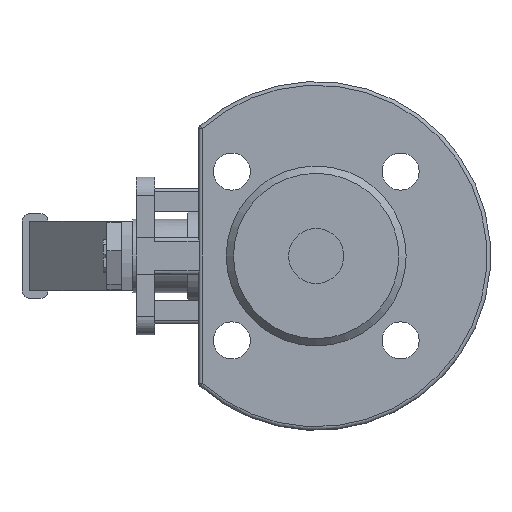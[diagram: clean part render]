
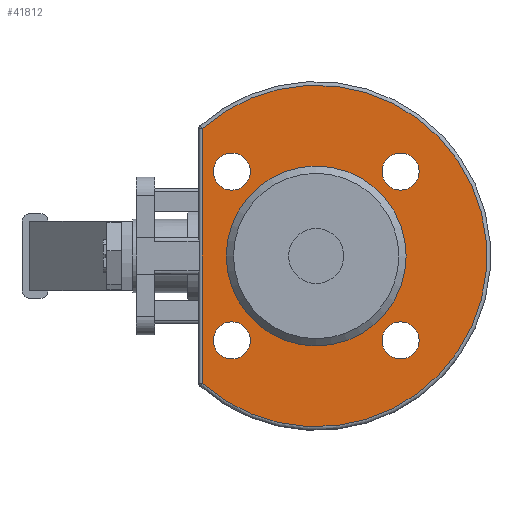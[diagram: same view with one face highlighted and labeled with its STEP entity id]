
A CAD part, left-side view. The second image highlights one B-rep face of the part: STEP entity #41812.
In plain terms, the highlighted planar face has unit normal (-1, 0, 0).
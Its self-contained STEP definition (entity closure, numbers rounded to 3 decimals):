
#41584=CARTESIAN_POINT('',(-19.,31.,-34.659));
#41585=VERTEX_POINT('',#41584);
#41593=CARTESIAN_POINT('',(-19.,31.,34.659));
#41594=VERTEX_POINT('',#41593);
#41595=CARTESIAN_POINT('',(-19.,31.,-34.659));
#41596=DIRECTION('',(0.0,0.0,1.0));
#41597=VECTOR('',#41596,69.318);
#41598=LINE('',#41595,#41597);
#41599=EDGE_CURVE('',#41585,#41594,#41598,.T.);
#41742=CARTESIAN_POINT('',(-19.,36.0,0.0));
#41743=DIRECTION('',(-1.0,0.0,0.0));
#41744=DIRECTION('',(0.0,0.0,1.0));
#41745=AXIS2_PLACEMENT_3D('',#41742,#41743,#41744);
#41746=PLANE('',#41745);
#41747=ORIENTED_EDGE('',*,*,#41599,.F.);
#41748=CARTESIAN_POINT('',(-19.,0.0,0.0));
#41749=DIRECTION('',(1.0,0.0,0.0));
#41750=DIRECTION('',(0.0,-1.0,0.0));
#41751=AXIS2_PLACEMENT_3D('',#41748,#41749,#41750);
#41752=CIRCLE('',#41751,46.5);
#41753=EDGE_CURVE('',#41594,#41585,#41752,.T.);
#41754=ORIENTED_EDGE('',*,*,#41753,.F.);
#41755=EDGE_LOOP('',(#41747,#41754));
#41756=FACE_OUTER_BOUND('',#41755,.T.);
#41757=CARTESIAN_POINT('',(-19.,24.5,0.0));
#41758=VERTEX_POINT('',#41757);
#41759=CARTESIAN_POINT('',(-19.,0.0,0.0));
#41760=DIRECTION('',(1.0,0.0,0.0));
#41761=DIRECTION('',(0.0,1.0,0.0));
#41762=AXIS2_PLACEMENT_3D('',#41759,#41760,#41761);
#41763=CIRCLE('',#41762,24.5);
#41764=EDGE_CURVE('',#41758,#41758,#41763,.T.);
#41765=ORIENTED_EDGE('',*,*,#41764,.T.);
#41766=EDGE_LOOP('',(#41765));
#41767=FACE_BOUND('',#41766,.T.);
#41768=CARTESIAN_POINT('',(-19.,22.981,28.034));
#41769=VERTEX_POINT('',#41768);
#41770=CARTESIAN_POINT('',(-19.,22.981,22.981));
#41771=DIRECTION('',(1.0,0.0,0.0));
#41772=DIRECTION('',(0.0,0.0,1.0));
#41773=AXIS2_PLACEMENT_3D('',#41770,#41771,#41772);
#41774=CIRCLE('',#41773,5.053);
#41775=EDGE_CURVE('',#41769,#41769,#41774,.T.);
#41776=ORIENTED_EDGE('',*,*,#41775,.T.);
#41777=EDGE_LOOP('',(#41776));
#41778=FACE_BOUND('',#41777,.T.);
#41779=CARTESIAN_POINT('',(-19.,22.981,-17.928));
#41780=VERTEX_POINT('',#41779);
#41781=CARTESIAN_POINT('',(-19.,22.981,-22.981));
#41782=DIRECTION('',(1.0,0.0,0.0));
#41783=DIRECTION('',(0.0,0.0,1.0));
#41784=AXIS2_PLACEMENT_3D('',#41781,#41782,#41783);
#41785=CIRCLE('',#41784,5.053);
#41786=EDGE_CURVE('',#41780,#41780,#41785,.T.);
#41787=ORIENTED_EDGE('',*,*,#41786,.T.);
#41788=EDGE_LOOP('',(#41787));
#41789=FACE_BOUND('',#41788,.T.);
#41790=CARTESIAN_POINT('',(-19.,-22.981,-17.928));
#41791=VERTEX_POINT('',#41790);
#41792=CARTESIAN_POINT('',(-19.,-22.981,-22.981));
#41793=DIRECTION('',(1.0,0.0,0.0));
#41794=DIRECTION('',(0.0,0.0,1.0));
#41795=AXIS2_PLACEMENT_3D('',#41792,#41793,#41794);
#41796=CIRCLE('',#41795,5.053);
#41797=EDGE_CURVE('',#41791,#41791,#41796,.T.);
#41798=ORIENTED_EDGE('',*,*,#41797,.T.);
#41799=EDGE_LOOP('',(#41798));
#41800=FACE_BOUND('',#41799,.T.);
#41801=CARTESIAN_POINT('',(-19.,-22.981,28.034));
#41802=VERTEX_POINT('',#41801);
#41803=CARTESIAN_POINT('',(-19.,-22.981,22.981));
#41804=DIRECTION('',(1.0,0.0,0.0));
#41805=DIRECTION('',(0.0,0.0,1.0));
#41806=AXIS2_PLACEMENT_3D('',#41803,#41804,#41805);
#41807=CIRCLE('',#41806,5.053);
#41808=EDGE_CURVE('',#41802,#41802,#41807,.T.);
#41809=ORIENTED_EDGE('',*,*,#41808,.T.);
#41810=EDGE_LOOP('',(#41809));
#41811=FACE_BOUND('',#41810,.T.);
#41812=ADVANCED_FACE('',(#41756,#41767,#41778,#41789,#41800,#41811),#41746,.T.);
